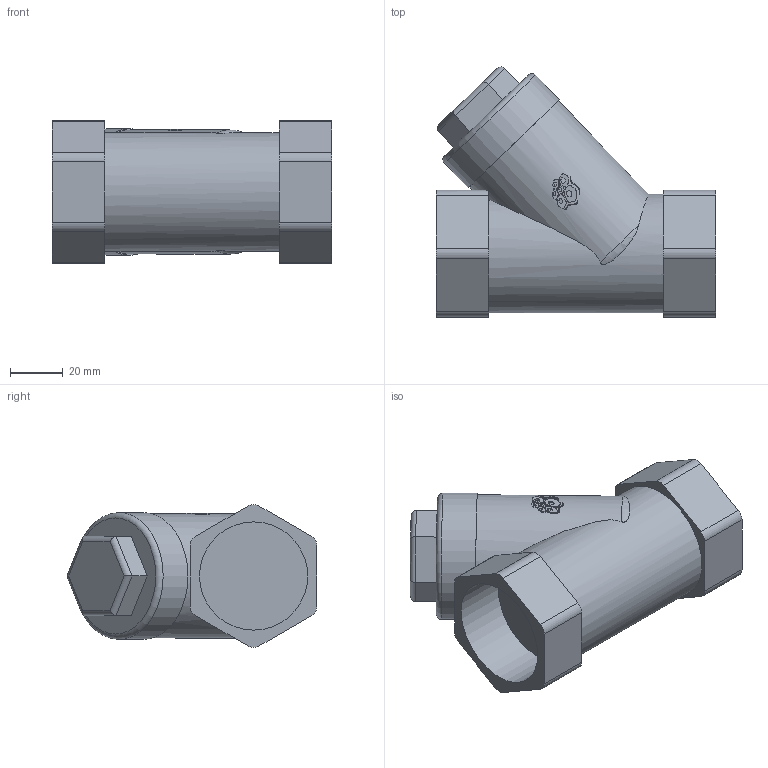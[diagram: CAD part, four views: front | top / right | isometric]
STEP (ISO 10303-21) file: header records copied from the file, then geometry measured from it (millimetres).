
FILE_DESCRIPTION(('STEP AP203'), '1');
FILE_NAME('3D_6460-032-40', '', ('UNSPECIFIED'), ('UNSPECIFIED'), 'C3D Converter', 'C3D Toolkit', '');
FILE_SCHEMA(('CONFIG_CONTROL_DESIGN'));
Length unit declared in the file: millimetre
Bounding box: 106 x 94.68 x 54.19 mm (x, y, z)
Volume: 221496.4 mm3; surface area: 33294 mm2
Topology: 1 solids, 1 shells, 882 faces, 2581 edges, 1720 vertices
Faces by surface type: plane 849, cylinder 30, torus 3
Full cylindrical faces by diameter (mm): 41 x2, 45 x1, 47 x1, 48 x1
Entity records: 36371 total; most frequent: CARTESIAN_POINT 8197, ORIENTED_EDGE 5150, DIRECTION 3576, EDGE_CURVE 2575, LINE 1724, VECTOR 1724, VERTEX_POINT 1720, AXIS2_PLACEMENT_3D 926
